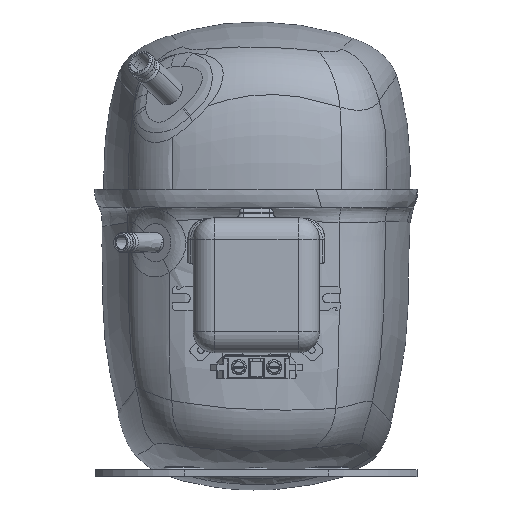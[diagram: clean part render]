
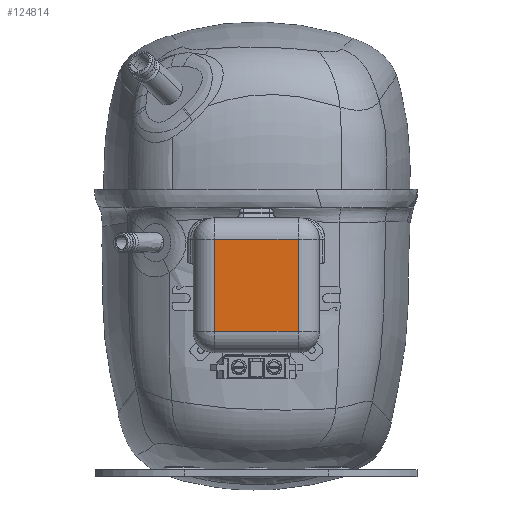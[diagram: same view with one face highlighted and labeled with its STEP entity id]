
A CAD part, top view. The second image highlights one B-rep face of the part: STEP entity #124814.
In plain terms, the highlighted planar face has unit normal (0, 0, 1) as drawn and (1, 0, 0) by its records, which use the part's own axes.
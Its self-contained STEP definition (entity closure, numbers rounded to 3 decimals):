
#122996=DIRECTION('',(0.,1.,0.));
#122997=VECTOR('',#122996,43.);
#122998=CARTESIAN_POINT('',(48.,-21.5,-19.5));
#122999=LINE('',#122998,#122997);
#123000=DIRECTION('',(0.,0.,-1.));
#123001=VECTOR('',#123000,39.);
#123002=CARTESIAN_POINT('',(48.,-21.5,19.5));
#123003=LINE('',#123002,#123001);
#123004=DIRECTION('',(0.,-1.,0.));
#123005=VECTOR('',#123004,43.);
#123006=CARTESIAN_POINT('',(48.,21.5,19.5));
#123007=LINE('',#123006,#123005);
#123008=DIRECTION('',(0.,0.,1.));
#123009=VECTOR('',#123008,39.);
#123010=CARTESIAN_POINT('',(48.,21.5,-19.5));
#123011=LINE('',#123010,#123009);
#123459=CARTESIAN_POINT('',(48.,-21.5,-19.5));
#123460=CARTESIAN_POINT('',(48.,21.5,-19.5));
#123461=VERTEX_POINT('',#123459);
#123462=VERTEX_POINT('',#123460);
#123467=CARTESIAN_POINT('',(48.,-21.5,19.5));
#123468=VERTEX_POINT('',#123467);
#123473=CARTESIAN_POINT('',(48.,21.5,19.5));
#123474=VERTEX_POINT('',#123473);
#124800=CARTESIAN_POINT('',(48.,0.,0.));
#124801=DIRECTION('',(1.,0.,0.));
#124802=DIRECTION('',(0.,0.,-1.));
#124803=AXIS2_PLACEMENT_3D('',#124800,#124801,#124802);
#124804=PLANE('',#124803);
#124806=ORIENTED_EDGE('',*,*,#124805,.F.);
#124808=ORIENTED_EDGE('',*,*,#124807,.F.);
#124810=ORIENTED_EDGE('',*,*,#124809,.F.);
#124811=ORIENTED_EDGE('',*,*,#124791,.F.);
#124812=EDGE_LOOP('',(#124806,#124808,#124810,#124811));
#124813=FACE_OUTER_BOUND('',#124812,.F.);
#124814=ADVANCED_FACE('',(#124813),#124804,.T.);
#124791=EDGE_CURVE('',#123462,#123474,#123011,.T.);
#124805=EDGE_CURVE('',#123461,#123462,#122999,.T.);
#124807=EDGE_CURVE('',#123468,#123461,#123003,.T.);
#124809=EDGE_CURVE('',#123474,#123468,#123007,.T.);
